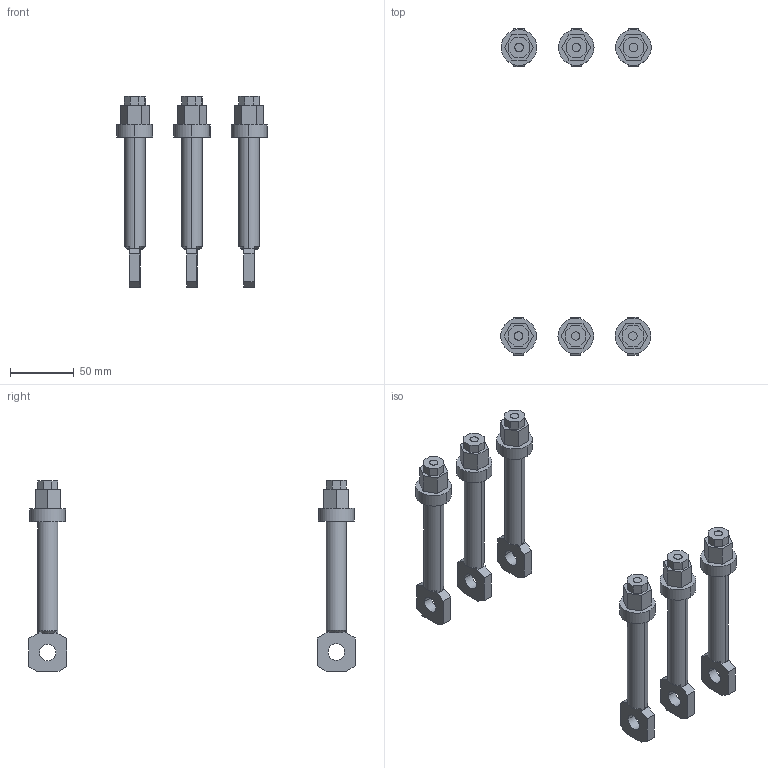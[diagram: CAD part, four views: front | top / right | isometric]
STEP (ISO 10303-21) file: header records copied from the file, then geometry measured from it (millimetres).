
FILE_DESCRIPTION (( 'STEP AP214' ), '1' );
FILE_NAME ('ÊÇÏ OptiMat D400, D630 6 øò äëèííûå âåðòèêàëüíûå.STEP', '2023-04-04T02:30:29', ( '' ), ( '' ), 'SwSTEP 2.0', 'SolidWorks 2018', '' );
FILE_SCHEMA (( 'AUTOMOTIVE_DESIGN' ));
Length unit declared in the file: millimetre
Products named in the file (2): ÊÇÏ OptiMat D400, D630 6 øò äëèííûå âåðòèêàëüíûå; ÊÇÏ_„«¨­­ë© 1
Assembly tree (6 placements, depth 2):
  ÊÇÏ OptiMat D400, D630 6 øò äëèííûå âåðòèêàëüíûå
    ÊÇÏ_„«¨­­ë© 1  x6
Bounding box: 118.38 x 257 x 150.5 mm (x, y, z)
Volume: 208542.8 mm3; surface area: 65117.2 mm2
Topology: 6 solids, 6 shells, 270 faces, 684 edges, 456 vertices
Faces by surface type: plane 198, cylinder 60, cone 12
Entity records: 1468 total; most frequent: CARTESIAN_POINT 256, DIRECTION 244, ORIENTED_EDGE 228, EDGE_CURVE 114, VECTOR 84, LINE 84, AXIS2_PLACEMENT_3D 80, VERTEX_POINT 76
